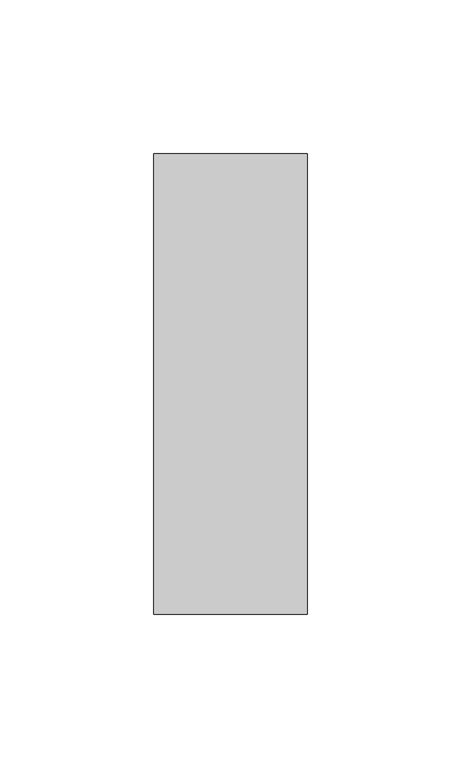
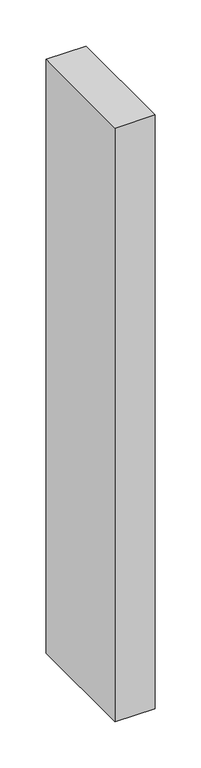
"""IFC4 building model written with IfcOpenShell, lengths in millimetres: member geometry, Прямоугольный импост : 50 x 150 мм."""

from ifc_helpers import new_model, si_unit, frame, origin, place, context, project, spatial, polyline, outline, extrude, source, transform, mapped, element, save


def member_78814d4a(model_context):
    return source(origin(), model_context, "Body", "SweptSolid", [
        extrude(outline(polyline([(25.0, 75.0), (25.0, -75.0), (-25.0, -75.0), (-25.0, 75.0), (25.0, 75.0)])), frame((0.0, 0.0, -785.5105999), z_axis=(0.0, 0.0, 1.0), x_axis=(1.0, 0.0, 0.0)), (0.0, 0.0, 1.0), 785.5105999),
    ])


if __name__ == "__main__":
    model = new_model("IFC4")
    model_context = context("Model", 3, world=origin())
    ifc_project = project(units=[si_unit("LENGTHUNIT", "METRE", prefix="MILLI")], contexts=[model_context])
    site = spatial("IfcSite", under=ifc_project)
    building = spatial("IfcBuilding", under=site)
    placement = place(None, origin())
    member_shape = member_78814d4a(model_context)
    element("IfcMember", 1, ObjectType="Прямоугольный импост : 50 x 150 мм", at=placement, inside=building, context=model_context, shape_type="MappedRepresentation", body=[
        mapped(member_shape, transform((0.0, 0.0, 0.0), x_axis=(1.0, 0.0, 0.0), y_axis=(0.0, 1.0, 0.0), z_axis=(0.0, 0.0, 1.0))),
    ])
    save(model, "model.ifc")
